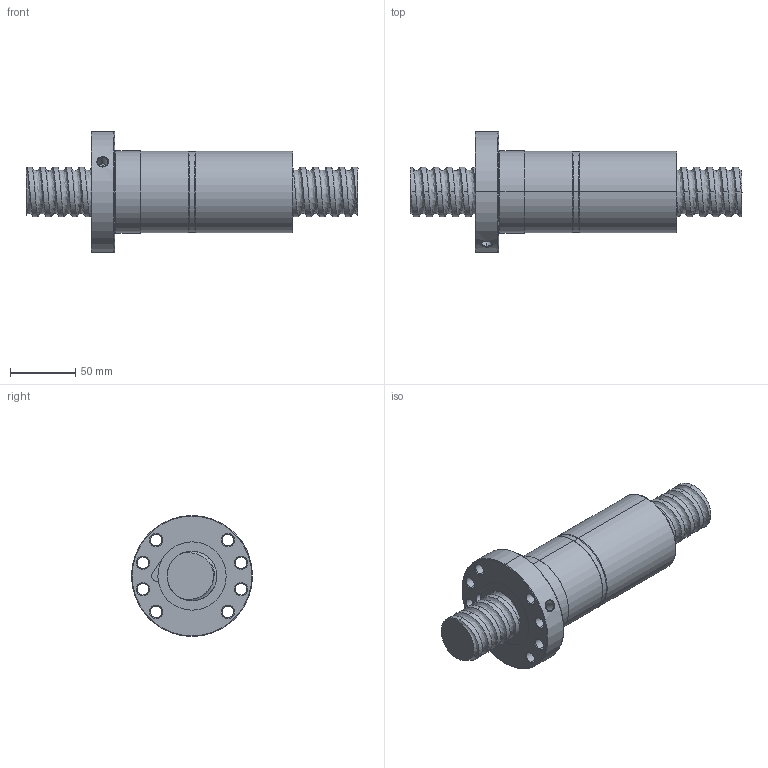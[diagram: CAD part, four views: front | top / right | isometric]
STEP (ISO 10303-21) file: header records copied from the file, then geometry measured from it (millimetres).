
FILE_DESCRIPTION (( 'STEP AP214' ), '1' );
FILE_NAME ('FDDC03810T5-F-A.STEP', '2010-07-06T05:35:27', ( 'XPAUTO' ), ( 'XPAUTO' ), 'SwSTEP 2.0', 'SolidWorks 2007', '' );
FILE_SCHEMA (( 'AUTOMOTIVE_DESIGN' ));
Products named in the file (3): FDDC03810T5-F-A; FDDC03810T5-F-A.sldasm-Part-2_預設; FDDC03810T5-F-A.sldasm-Part-1_預設
Assembly tree (2 placements, depth 2):
  FDDC03810T5-F-A
    FDDC03810T5-F-A.sldasm-Part-2_預設
    FDDC03810T5-F-A.sldasm-Part-1_預設
Bounding box: 255 x 93 x 93 mm (x, y, z)
Volume: 615152.9 mm3; surface area: 104125.4 mm2
Topology: 2 solids, 2 shells, 159 faces, 399 edges, 249 vertices
Faces by surface type: cylinder 96, cone 32, plane 16, torus 10, bspline 5
Entity records: 46408 total; most frequent: CARTESIAN_POINT 42639, ORIENTED_EDGE 798, DIRECTION 729, EDGE_CURVE 399, AXIS2_PLACEMENT_3D 297, VERTEX_POINT 249, EDGE_LOOP 184, ADVANCED_FACE 159
